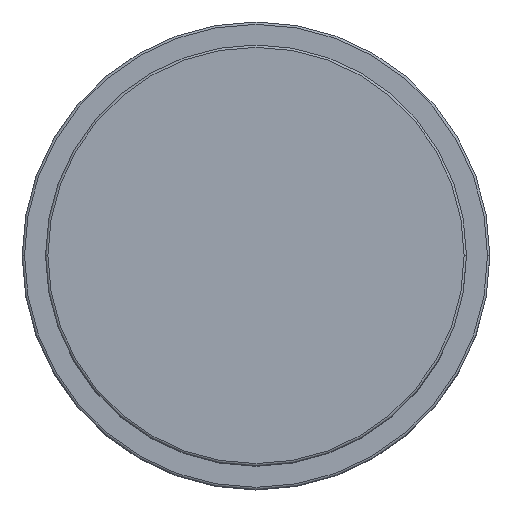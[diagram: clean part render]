
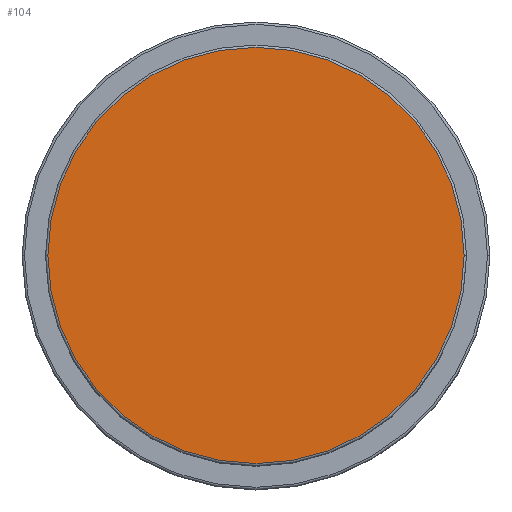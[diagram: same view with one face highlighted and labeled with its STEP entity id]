
A CAD part, top view. The second image highlights one B-rep face of the part: STEP entity #104.
In plain terms, the highlighted planar face has unit normal (0, 0, 1).
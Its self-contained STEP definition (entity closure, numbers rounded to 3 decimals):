
#32 = CARTESIAN_POINT ( 'NONE',  ( 0., 0., 67. ) ) ;
#88 = ORIENTED_EDGE ( 'NONE', *, *, #314, .T. ) ;
#104 = ADVANCED_FACE ( 'NONE', ( #498 ), #1538, .T. ) ;
#114 = CARTESIAN_POINT ( 'NONE',  ( 0., 0., 67. ) ) ;
#158 = DIRECTION ( 'NONE',  ( 1., 0., 0. ) ) ;
#194 = EDGE_LOOP ( 'NONE', ( #440, #88 ) ) ;
#251 = DIRECTION ( 'NONE',  ( 0., 0., 1. ) ) ;
#279 = CIRCLE ( 'NONE', #955, 44.5 ) ;
#314 = EDGE_CURVE ( 'NONE', #492, #612, #415, .T. ) ;
#368 = CARTESIAN_POINT ( 'NONE',  ( -44.5, 0., 67. ) ) ;
#415 = CIRCLE ( 'NONE', #679, 44.5 ) ;
#420 = AXIS2_PLACEMENT_3D ( 'NONE', #32, #653, #158 ) ;
#440 = ORIENTED_EDGE ( 'NONE', *, *, #1615, .T. ) ;
#492 = VERTEX_POINT ( 'NONE', #368 ) ;
#498 = FACE_OUTER_BOUND ( 'NONE', #194, .T. ) ;
#576 = DIRECTION ( 'NONE',  ( 0., 0., 1. ) ) ;
#612 = VERTEX_POINT ( 'NONE', #1177 ) ;
#653 = DIRECTION ( 'NONE',  ( 0., 0., 1. ) ) ;
#679 = AXIS2_PLACEMENT_3D ( 'NONE', #690, #576, #1217 ) ;
#690 = CARTESIAN_POINT ( 'NONE',  ( 0., 0., 67. ) ) ;
#892 = DIRECTION ( 'NONE',  ( 1., 0., 0. ) ) ;
#955 = AXIS2_PLACEMENT_3D ( 'NONE', #114, #251, #892 ) ;
#1177 = CARTESIAN_POINT ( 'NONE',  ( 44.5, 0., 67. ) ) ;
#1217 = DIRECTION ( 'NONE',  ( 1., 0., 0. ) ) ;
#1538 = PLANE ( 'NONE',  #420 ) ;
#1615 = EDGE_CURVE ( 'NONE', #612, #492, #279, .T. ) ;
